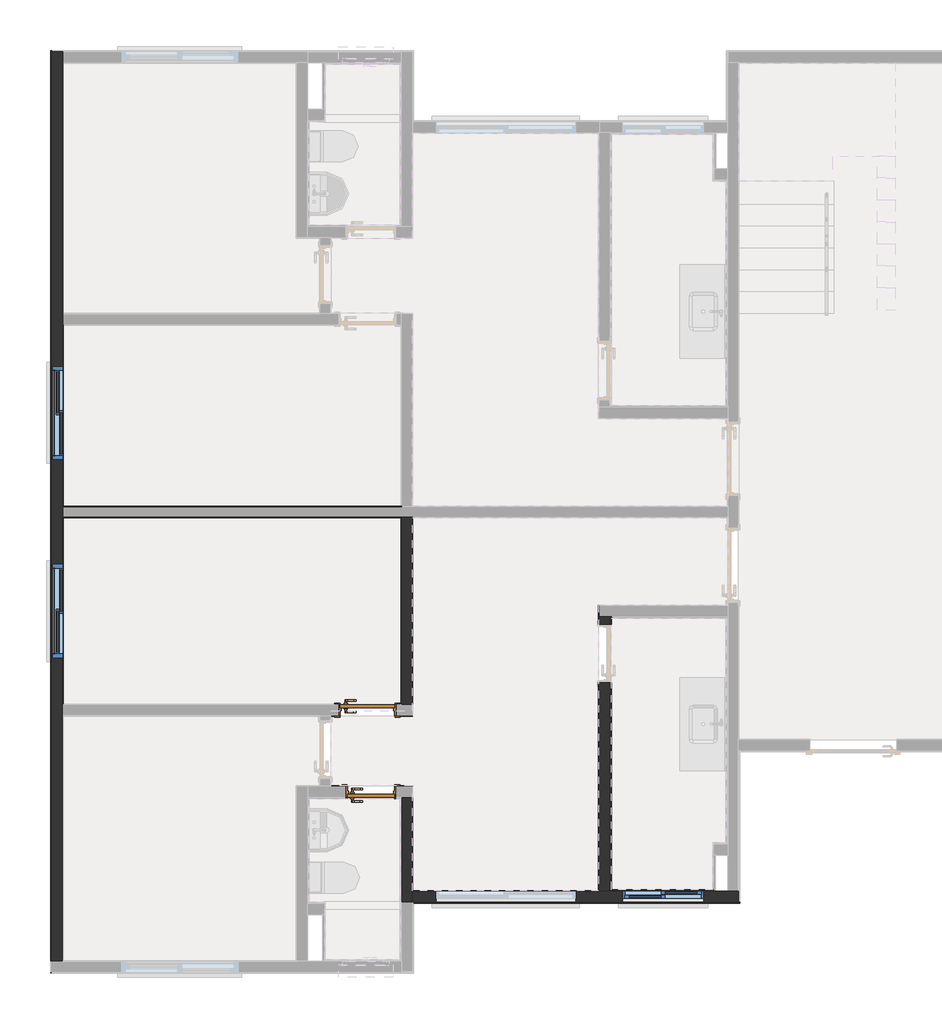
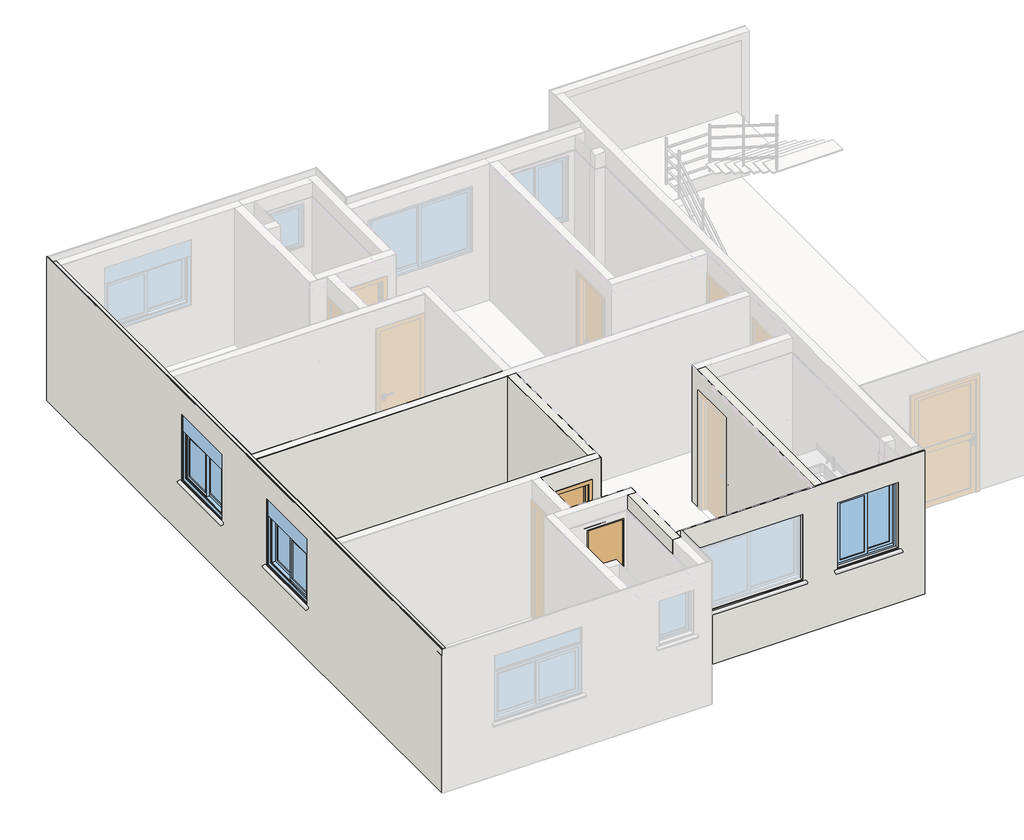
# One storey, part 2 of 11: 20 walls, 3 windows, 2 doors.
"""IFC4 building model written with IfcOpenShell, lengths in millimetres."""

from ifc_helpers import new_model, si_unit, frame, origin, origin_with_axes, place, context, project, spatial, polyline, outline, extrude, faceted_brep, transform, mapped, element, save
from components import porta_de_madeira_interna_60_x_210_porta_de_madeira_interna_53f76a03, porta_de_madeira_interna_70_x_210_porta_de_madeira_interna_d0067c94, window_105x120_f2d7c1f1, window_120x120_fed861a7, window_120x120_8f0dd2b5

model = new_model("IFC4")

# Units and contexts
model_context = context("Model", 3, world=origin())
ifc_project = project(units=[si_unit("LENGTHUNIT", "METRE", prefix="MILLI")], contexts=[model_context])

# Site, building, storey
site = spatial("IfcSite", under=ifc_project)
building = spatial("IfcBuilding", under=site)
storey = spatial("IfcBuildingStorey", under=building, Name="Térreo", Elevation=0.0)

# Doors
placement = place(None, origin())
porta_de_madeira_interna_60_x_210_porta_de_madeira_interna_shape = porta_de_madeira_interna_60_x_210_porta_de_madeira_interna_53f76a03(model_context)
element("IfcDoor", 1, ObjectType="Porta de Madeira Interna 60 x 210 : Porta de Madeira Interna 60 x 210", at=placement, inside=storey, context=model_context, shape_type="MappedRepresentation", body=[
    mapped(porta_de_madeira_interna_60_x_210_porta_de_madeira_interna_shape, transform((4137.9990083, 2796.8217615, 0.0), x_axis=(1.0, 0.0, 0.0), y_axis=(0.0, 1.0, 0.0), z_axis=(0.0, 0.0, 1.0))),
])
porta_de_madeira_interna_70_x_210_porta_de_madeira_interna_shape = porta_de_madeira_interna_70_x_210_porta_de_madeira_interna_d0067c94(model_context)
element("IfcDoor", 2, ObjectType="Porta de Madeira Interna 70 x 210 : Porta de Madeira Interna 70 x 210", at=placement, inside=storey, context=model_context, shape_type="MappedRepresentation", body=[
    mapped(porta_de_madeira_interna_70_x_210_porta_de_madeira_interna_shape, transform((4092.999908, 3853.1701411, 0.0), x_axis=(1.0, 0.0, 0.0), y_axis=(0.0, 1.0, 0.0), z_axis=(0.0, 0.0, 1.0))),
])

# Walls
element("IfcWall", 3, ObjectType="Alvenaria Estrutural", at=placement, inside=storey, context=model_context, shape_type="Brep", body=[
    faceted_brep([(29.9991825, 4525.0101878, 1000.0), (29.9991825, 4525.0101878, 2200.0), (169.9991825, 4525.0101878, 2200.0), (169.9991825, 4525.0101878, 1000.0), (127.4991825, 4525.0101878, 1000.0), (29.9991825, 8275.01044, 2200.0), (29.9991825, 8275.01044, 1000.0), (127.4991825, 8275.01044, 1000.0), (169.9991825, 8275.01044, 1000.0), (169.9991825, 8275.01044, 2200.0), (29.9991825, 619.9952456, 0.0), (29.9991825, 12319.9951043, 0.0), (169.9991825, 12319.9951043, 0.0), (169.9991825, 12180.0252435, 0.0), (169.9991825, 8956.0244803, 0.0), (169.9991825, 8950.0244803, 0.0), (169.9991825, 8810.0244803, 0.0), (169.9991825, 8804.0244803, 0.0), (169.9991825, 6476.0103139, 0.0), (169.9991825, 6470.0103139, 0.0), (169.9991825, 6330.0103139, 0.0), (169.9991825, 6324.0103139, 0.0), (169.9991825, 3925.9951411, 0.0), (169.9991825, 3919.9951411, 0.0), (169.9991825, 3779.9951411, 0.0), (169.9991825, 3773.9951411, 0.0), (169.9991825, 619.9952456, 0.0), (29.9991825, 619.9952456, 2510.0), (169.9991825, 619.9952456, 2510.0), (29.9991825, 12319.9951043, 2510.0), (169.9991825, 12319.9951043, 2510.0), (29.9991825, 4475.0101878, 951.3083694), (29.9991825, 4475.0101878, 1000.0), (127.4991825, 4475.0101878, 1000.0), (127.4991825, 4475.0101878, 972.0326341), (29.9991825, 5775.0101878, 1000.0), (29.9991825, 5775.0101878, 951.3083694), (127.4991825, 5775.0101878, 972.0326341), (127.4991825, 5775.0101878, 1000.0), (127.4991825, 5725.0101878, 1000.0), (29.9991825, 7025.01044, 951.3083694), (29.9991825, 7025.01044, 1000.0), (127.4991825, 7025.01044, 1000.0), (127.4991825, 7025.01044, 972.0326341), (29.9991825, 8325.01044, 1000.0), (29.9991825, 8325.01044, 951.3083694), (127.4991825, 8325.01044, 972.0326341), (127.4991825, 8325.01044, 1000.0), (127.4991825, 7075.01044, 1000.0), (29.9991825, 7075.01044, 1000.0), (29.9991825, 7075.01044, 2200.0), (29.9991825, 5725.0101878, 1000.0), (29.9991825, 5725.0101878, 2200.0), (169.9991825, 12180.0252435, 2510.0), (169.9991825, 8956.0244803, 2510.0), (169.9991825, 8950.0244803, 2510.0), (169.9991825, 8810.0244803, 2510.0), (169.9991825, 8804.0244803, 2510.0), (169.9991825, 6476.0103139, 2510.0), (169.9991825, 6470.0103139, 2510.0), (169.9991825, 6330.0103139, 2510.0), (169.9991825, 6324.0103139, 2510.0), (169.9991825, 3925.9951411, 2510.0), (169.9991825, 3919.9951411, 2510.0), (169.9991825, 3779.9951411, 2510.0), (169.9991825, 3773.9951411, 2510.0), (169.9991825, 5725.0101878, 2200.0), (169.9991825, 5725.0101878, 1000.0), (169.9991825, 7075.01044, 1000.0), (169.9991825, 7075.01044, 2200.0)], [[[0, 1, 2, 3, 4]], [[5, 6, 7, 8, 9]], [[10, 11, 12, 13, 14, 15, 16, 17, 18, 19, 20, 21, 22, 23, 24, 25, 26]], [[27, 10, 26, 28]], [[11, 29, 30, 12]], [[31, 32, 33, 34]], [[35, 36, 37, 38]], [[4, 39, 38, 37, 34, 33]], [[32, 0, 4, 33]], [[36, 31, 34, 37]], [[40, 41, 42, 43]], [[44, 45, 46, 47]], [[48, 7, 47, 46, 43, 42]], [[41, 49, 48, 42]], [[45, 40, 43, 46]], [[11, 10, 27, 29], [41, 40, 45, 44, 6, 5, 50, 49], [51, 52, 1, 0, 32, 31, 36, 35]], [[26, 25, 24, 23, 22, 21, 20, 19, 18, 17, 16, 15, 14, 13, 12, 30, 53, 54, 55, 56, 57, 58, 59, 60, 61, 62, 63, 64, 65, 28], [66, 67, 3, 2], [68, 69, 9, 8]], [[52, 51, 39, 67, 66]], [[1, 52, 66, 2]], [[3, 67, 39, 4]], [[49, 50, 69, 68, 48]], [[50, 5, 9, 69]], [[68, 8, 7, 48]], [[6, 44, 47, 7]], [[51, 35, 38, 39]], [[29, 27, 28, 65, 64, 63, 62, 61, 60, 59, 58, 57, 56, 55, 54, 53, 30]]]),
    faceted_brep([(29.9991825, 12319.9951043, 0.0), (29.9991825, 619.9952456, 0.0), (29.9991825, 619.9952456, 2510.0), (29.9991825, 12319.9951043, 2510.0), (29.9991825, 5725.0101878, 1000.0), (29.9991825, 5725.0101878, 2200.0), (29.9991825, 4525.0101878, 2200.0), (29.9991825, 4525.0101878, 1000.0), (29.9991825, 4475.0101878, 1000.0), (29.9991825, 4475.0101878, 951.3083694), (29.9991825, 5775.0101878, 951.3083694), (29.9991825, 5775.0101878, 1000.0), (29.9991825, 7025.01044, 1000.0), (29.9991825, 7025.01044, 951.3083694), (29.9991825, 8325.01044, 951.3083694), (29.9991825, 8325.01044, 1000.0), (29.9991825, 8275.01044, 1000.0), (29.9991825, 8275.01044, 2200.0), (29.9991825, 7075.01044, 2200.0), (29.9991825, 7075.01044, 1000.0), (169.9991825, 619.9952456, 0.0), (169.9991825, 3773.9951411, 0.0), (169.9991825, 3779.9951411, 0.0), (169.9991825, 3919.9951411, 0.0), (169.9991825, 3925.9951411, 0.0), (169.9991825, 6324.0103139, 0.0), (169.9991825, 6330.0103139, 0.0), (169.9991825, 6470.0103139, 0.0), (169.9991825, 6476.0103139, 0.0), (169.9991825, 8804.0244803, 0.0), (169.9991825, 8810.0244803, 0.0), (169.9991825, 8950.0244803, 0.0), (169.9991825, 8956.0244803, 0.0), (169.9991825, 12180.0252435, 0.0), (169.9991825, 12319.9951043, 0.0), (169.9991825, 12319.9951043, 2510.0), (169.9991825, 12180.0252435, 2510.0), (169.9991825, 8956.0244803, 2510.0), (169.9991825, 8950.0244803, 2510.0), (169.9991825, 8810.0244803, 2510.0), (169.9991825, 8804.0244803, 2510.0), (169.9991825, 6476.0103139, 2510.0), (169.9991825, 6470.0103139, 2510.0), (169.9991825, 6330.0103139, 2510.0), (169.9991825, 6324.0103139, 2510.0), (169.9991825, 3925.9951411, 2510.0), (169.9991825, 3919.9951411, 2510.0), (169.9991825, 3779.9951411, 2510.0), (169.9991825, 3773.9951411, 2510.0), (169.9991825, 619.9952456, 2510.0), (169.9991825, 5725.0101878, 2200.0), (169.9991825, 5725.0101878, 1000.0), (169.9991825, 4525.0101878, 1000.0), (169.9991825, 4525.0101878, 2200.0), (169.9991825, 7075.01044, 1000.0), (169.9991825, 7075.01044, 2200.0), (169.9991825, 8275.01044, 2200.0), (169.9991825, 8275.01044, 1000.0), (127.4991825, 5725.0101878, 1000.0), (127.4991825, 4525.0101878, 1000.0), (127.4991825, 7075.01044, 1000.0), (127.4991825, 8275.01044, 1000.0), (127.4991825, 4475.0101878, 1000.0), (127.4991825, 4475.0101878, 972.0326341), (127.4991825, 5775.0101878, 972.0326341), (127.4991825, 5775.0101878, 1000.0), (127.4991825, 7025.01044, 1000.0), (127.4991825, 7025.01044, 972.0326341), (127.4991825, 8325.01044, 972.0326341), (127.4991825, 8325.01044, 1000.0)], [[[0, 1, 2, 3], [4, 5, 6, 7, 8, 9, 10, 11], [12, 13, 14, 15, 16, 17, 18, 19]], [[20, 21, 22, 23, 24, 25, 26, 27, 28, 29, 30, 31, 32, 33, 34, 35, 36, 37, 38, 39, 40, 41, 42, 43, 44, 45, 46, 47, 48, 49], [50, 51, 52, 53], [54, 55, 56, 57]], [[5, 4, 58, 51, 50]], [[6, 5, 50, 53]], [[7, 6, 53, 52, 59]], [[52, 51, 58, 59]], [[19, 18, 55, 54, 60]], [[18, 17, 56, 55]], [[17, 16, 61, 57, 56]], [[54, 57, 61, 60]], [[1, 0, 34, 33, 32, 31, 30, 29, 28, 27, 26, 25, 24, 23, 22, 21, 20]], [[2, 1, 20, 49]], [[3, 2, 49, 48, 47, 46, 45, 44, 43, 42, 41, 40, 39, 38, 37, 36, 35]], [[0, 3, 35, 34]], [[9, 8, 62, 63]], [[11, 10, 64, 65]], [[59, 58, 65, 64, 63, 62]], [[8, 7, 59, 62]], [[10, 9, 63, 64]], [[13, 12, 66, 67]], [[15, 14, 68, 69]], [[60, 61, 69, 68, 67, 66]], [[12, 19, 60, 66]], [[14, 13, 67, 68]], [[16, 15, 69, 61]], [[4, 11, 65, 58]]]),
])
element("IfcWall", 4, ObjectType="Alvenaria Estrutural", at=placement, inside=storey, context=model_context, shape_type="Brep", body=[
    faceted_brep([(4529.9996867, 6324.0103139, 0.0), (4529.9996867, 6330.0103139, 0.0), (4669.9996867, 6330.0103139, 0.0), (4669.9996867, 6324.0103139, 0.0), (4669.9996867, 3919.9951411, 0.0), (4529.9996867, 3919.9951411, 0.0), (4529.9996867, 3925.9951411, 0.0), (4529.9996867, 3925.9951411, 2510.0), (4529.9996867, 3919.9951411, 2510.0), (4669.9996867, 3919.9951411, 2510.0), (4669.9996867, 6324.0103139, 2510.0), (4669.9996867, 6330.0103139, 2510.0), (4529.9996867, 6330.0103139, 2510.0), (4529.9996867, 6324.0103139, 2510.0)], [[[0, 1, 2, 3, 4, 5, 6]], [[7, 8, 9, 10, 11, 12, 13]], [[2, 11, 10, 9, 4, 3]], [[1, 0, 6, 5, 8, 7, 13, 12]], [[1, 12, 11, 2]], [[8, 5, 4, 9]]]),
    faceted_brep([(4529.9996867, 6330.0103139, 0.0), (4529.9996867, 6324.0103139, 0.0), (4529.9996867, 3925.9951411, 0.0), (4529.9996867, 3919.9951411, 0.0), (4529.9996867, 3919.9951411, 2510.0), (4529.9996867, 3925.9951411, 2510.0), (4529.9996867, 6324.0103139, 2510.0), (4529.9996867, 6330.0103139, 2510.0), (4669.9996867, 6330.0103139, 0.0), (4669.9996867, 6330.0103139, 2510.0), (4669.9996867, 6324.0103139, 2510.0), (4669.9996867, 3919.9951411, 2510.0), (4669.9996867, 3919.9951411, 0.0), (4669.9996867, 6324.0103139, 0.0)], [[[0, 1, 2, 3, 4, 5, 6, 7]], [[8, 9, 10, 11, 12, 13]], [[1, 0, 8, 13, 12, 3, 2]], [[5, 4, 11, 10, 9, 7, 6]], [[0, 7, 9, 8]], [[4, 3, 12, 11]]]),
])
element("IfcWall", 5, ObjectType="Alvenaria Estrutural", at=placement, inside=storey, context=model_context, shape_type="Brep", body=[
    faceted_brep([(4669.9990083, 1519.9983274, 0.0), (4669.9990083, 1374.9970972, 0.0), (4529.9990083, 1374.9970972, 0.0), (4529.9990083, 2709.9967615, 0.0), (4529.9990083, 2729.9967615, 0.0), (4669.9990083, 2729.9967615, 0.0), (4669.9990083, 1525.9983274, 0.0), (4669.9990083, 1525.9983274, 2510.0), (4669.9990083, 2729.9967615, 2510.0), (4529.9990083, 2729.9967615, 2510.0), (4529.9990083, 1374.9970972, 2510.0), (4669.9990083, 1374.9970972, 2510.0), (4669.9990083, 1519.9983274, 2510.0), (4529.9990083, 2729.9967615, 2250.0)], [[[0, 1, 2, 3, 4, 5, 6]], [[7, 8, 9, 10, 11, 12]], [[1, 11, 10, 2]], [[1, 0, 6, 5, 8, 7, 12, 11]], [[2, 10, 9, 13, 4, 3]], [[8, 5, 4, 13, 9]]]),
    faceted_brep([(4669.9990083, 1374.9970972, 0.0), (4669.9990083, 1519.9983274, 0.0), (4669.9990083, 1525.9983274, 0.0), (4669.9990083, 2729.9967615, 0.0), (4669.9990083, 2729.9967615, 2510.0), (4669.9990083, 1525.9983274, 2510.0), (4669.9990083, 1519.9983274, 2510.0), (4669.9990083, 1374.9970972, 2510.0), (4529.9990083, 1374.9970972, 0.0), (4529.9990083, 1374.9970972, 2510.0), (4529.9990083, 2729.9967615, 2510.0), (4529.9990083, 2729.9967615, 2250.0), (4529.9990083, 2729.9967615, 0.0), (4529.9990083, 2709.9967615, 0.0)], [[[0, 1, 2, 3, 4, 5, 6, 7]], [[8, 9, 10, 11, 12, 13]], [[1, 0, 8, 13, 12, 3, 2]], [[5, 4, 10, 9, 7, 6]], [[0, 7, 9, 8]], [[4, 3, 12, 11, 10]]]),
])
element("IfcWall", 6, ObjectType="Alvenaria Estrutural", at=placement, inside=storey, context=model_context, shape_type="Brep", body=[
    faceted_brep([(8869.9990083, 1379.9983274, 2520.0), (8869.9990083, 1379.9983274, 10.0), (8869.9990083, 1519.9983274, 10.0), (8869.9990083, 1519.9983274, 2520.0), (4669.9990083, 1379.9983274, 2520.0), (4669.9990083, 1519.9983274, 2520.0), (4669.9990083, 1379.9983274, 10.0), (4669.9990083, 1519.9983274, 2510.0), (4669.9990083, 1519.9983274, 10.0), (8474.99921, 1379.9983274, 951.3083694), (8474.99921, 1379.9983274, 1000.0), (8474.99921, 1477.4983274, 1000.0), (8474.99921, 1477.4983274, 972.0326341), (7324.99921, 1379.9983274, 1000.0), (7324.99921, 1379.9983274, 951.3083694), (7324.99921, 1477.4983274, 972.0326341), (7324.99921, 1477.4983274, 1000.0), (8424.99921, 1477.4983274, 1000.0), (7374.99921, 1477.4983274, 1000.0), (8424.99921, 1379.9983274, 1000.0), (8424.99921, 1379.9983274, 2200.0), (8424.99921, 1519.9983274, 2200.0), (8424.99921, 1519.9983274, 1000.0), (7374.99921, 1379.9983274, 2200.0), (7374.99921, 1519.9983274, 2200.0), (7374.99921, 1379.9983274, 1000.0), (7374.99921, 1519.9983274, 1000.0), (6774.99925, 1519.9983274, 1000.0), (6774.99925, 1519.9983274, 2200.0), (4974.99925, 1519.9983274, 2200.0), (4974.99925, 1519.9983274, 1000.0), (4924.99925, 1379.9983274, 951.3083694), (4924.99925, 1379.9983274, 1000.0), (4974.99925, 1379.9983274, 1000.0), (4974.99925, 1379.9983274, 2200.0), (6774.99925, 1379.9983274, 2200.0), (6774.99925, 1379.9983274, 1000.0), (6824.99925, 1379.9983274, 1000.0), (6824.99925, 1379.9983274, 951.3083694), (4924.99925, 1477.4983274, 972.0326341), (4924.99925, 1477.4983274, 1000.0), (6824.99925, 1477.4983274, 1000.0), (6824.99925, 1477.4983274, 972.0326341), (6774.99925, 1477.4983274, 1000.0), (4974.99925, 1477.4983274, 1000.0)], [[[0, 1, 2, 3]], [[4, 0, 3, 5]], [[6, 4, 5, 7, 8]], [[9, 10, 11, 12]], [[13, 14, 15, 16]], [[12, 11, 17, 18, 16, 15]], [[10, 19, 17, 11]], [[14, 9, 12, 15]], [[19, 20, 21, 22, 17]], [[20, 23, 24, 21]], [[23, 25, 18, 26, 24]], [[22, 26, 18, 17]], [[25, 13, 16, 18]], [[8, 7, 5, 3, 2], [22, 21, 24, 26], [27, 28, 29, 30]], [[1, 0, 4, 6], [10, 9, 14, 13, 25, 23, 20, 19], [31, 32, 33, 34, 35, 36, 37, 38]], [[32, 31, 39, 40]], [[38, 37, 41, 42]], [[40, 39, 42, 41, 43, 44]], [[33, 32, 40, 44]], [[31, 38, 42, 39]], [[36, 35, 28, 27, 43]], [[35, 34, 29, 28]], [[34, 33, 44, 30, 29]], [[27, 30, 44, 43]], [[37, 36, 43, 41]], [[1, 6, 8, 2]]]),
    faceted_brep([(4669.9990083, 1379.9983274, 10.0), (8869.9990083, 1379.9983274, 10.0), (8869.9990083, 1379.9983274, 2520.0), (4669.9990083, 1379.9983274, 2520.0), (4924.99925, 1379.9983274, 951.3083694), (4924.99925, 1379.9983274, 1000.0), (4974.99925, 1379.9983274, 1000.0), (4974.99925, 1379.9983274, 2200.0), (6774.99925, 1379.9983274, 2200.0), (6774.99925, 1379.9983274, 1000.0), (6824.99925, 1379.9983274, 1000.0), (6824.99925, 1379.9983274, 951.3083694), (8474.99921, 1379.9983274, 1000.0), (8474.99921, 1379.9983274, 951.3083694), (7324.99921, 1379.9983274, 951.3083694), (7324.99921, 1379.9983274, 1000.0), (7374.99921, 1379.9983274, 1000.0), (7374.99921, 1379.9983274, 2200.0), (8424.99921, 1379.9983274, 2200.0), (8424.99921, 1379.9983274, 1000.0), (8869.9990083, 1519.9983274, 10.0), (4669.9990083, 1519.9983274, 10.0), (4669.9990083, 1519.9983274, 2510.0), (4669.9990083, 1519.9983274, 2520.0), (8869.9990083, 1519.9983274, 2520.0), (8424.99921, 1519.9983274, 1000.0), (8424.99921, 1519.9983274, 2200.0), (7374.99921, 1519.9983274, 2200.0), (7374.99921, 1519.9983274, 1000.0), (6774.99925, 1519.9983274, 1000.0), (6774.99925, 1519.9983274, 2200.0), (4974.99925, 1519.9983274, 2200.0), (4974.99925, 1519.9983274, 1000.0), (8474.99921, 1477.4983274, 1000.0), (8474.99921, 1477.4983274, 972.0326341), (7324.99921, 1477.4983274, 972.0326341), (7324.99921, 1477.4983274, 1000.0), (8424.99921, 1477.4983274, 1000.0), (7374.99921, 1477.4983274, 1000.0), (4924.99925, 1477.4983274, 972.0326341), (4924.99925, 1477.4983274, 1000.0), (6824.99925, 1477.4983274, 1000.0), (6824.99925, 1477.4983274, 972.0326341), (6774.99925, 1477.4983274, 1000.0), (4974.99925, 1477.4983274, 1000.0)], [[[0, 1, 2, 3], [4, 5, 6, 7, 8, 9, 10, 11], [12, 13, 14, 15, 16, 17, 18, 19]], [[20, 21, 22, 23, 24], [25, 26, 27, 28], [29, 30, 31, 32]], [[1, 0, 21, 20]], [[2, 1, 20, 24]], [[3, 2, 24, 23]], [[0, 3, 23, 22, 21]], [[13, 12, 33, 34]], [[15, 14, 35, 36]], [[34, 33, 37, 38, 36, 35]], [[12, 19, 37, 33]], [[14, 13, 34, 35]], [[19, 18, 26, 25, 37]], [[18, 17, 27, 26]], [[17, 16, 38, 28, 27]], [[25, 28, 38, 37]], [[5, 4, 39, 40]], [[11, 10, 41, 42]], [[40, 39, 42, 41, 43, 44]], [[6, 5, 40, 44]], [[4, 11, 42, 39]], [[9, 8, 30, 29, 43]], [[8, 7, 31, 30]], [[7, 6, 44, 32, 31]], [[29, 32, 44, 43]], [[10, 9, 43, 41]], [[16, 15, 36, 38]]]),
])
element("IfcWall", 7, ObjectType="Alvenaria Estrutural", at=placement, inside=storey, context=model_context, shape_type="Brep", body=[
    faceted_brep([(7212.9986861, 1519.9983274, 0.0), (7212.9986861, 1519.9983274, 10.0), (7212.9986861, 1519.9983274, 2250.0), (7212.9986861, 1519.9983274, 2510.0), (7072.9986861, 1519.9983274, 2510.0), (7072.9986861, 1519.9983274, 10.0), (7072.9986861, 1519.9983274, 0.0), (7212.9986861, 1539.9983274, 0.0), (7072.9986861, 1525.9983274, 0.0), (7072.9986861, 4203.6603139, 0.0), (7212.9986861, 4203.6603139, 0.0), (7212.9986861, 4203.6603139, 10.0), (7072.9986861, 4203.6603139, 10.0), (7072.9986861, 4203.6603139, 2125.0), (7212.9986861, 4203.6603139, 2125.0), (7212.9986861, 4953.6603139, 0.0), (7212.9986861, 4953.6603139, 10.0), (7212.9986861, 4953.6603139, 2125.0), (7072.9986861, 4953.6603139, 2125.0), (7072.9986861, 4953.6603139, 10.0), (7072.9986861, 4953.6603139, 0.0), (7212.9986861, 5033.6603139, 0.0), (7072.9986861, 5053.6603139, 0.0), (7212.9986861, 5053.6603139, 0.0), (7212.9986861, 5053.6603139, 10.0), (7072.9986861, 5053.6603139, 10.0), (7072.9986861, 5053.6603139, 2510.0), (7212.9986861, 5053.6603139, 2510.0), (7212.9986861, 5053.6603139, 2250.0), (7072.9986861, 1525.9983274, 2510.0)], [[[0, 1, 2, 3, 4, 5, 6]], [[7, 0, 6, 8, 9, 10]], [[11, 10, 9, 12, 13, 14]], [[15, 16, 17, 18, 19, 20]], [[21, 15, 20, 22, 23]], [[24, 23, 22, 25, 26, 27, 28]], [[25, 22, 20, 19, 18, 13, 12, 9, 8, 6, 5, 4, 29, 26]], [[3, 27, 26, 29, 4]], [[17, 14, 13, 18]], [[16, 15, 21, 23, 24, 28, 27, 3, 2, 1, 0, 7, 10, 11, 14, 17]]]),
])
element("IfcWall", 8, ObjectType="Azulejo", at=placement, inside=storey, context=model_context, shape_type="Brep", body=[
    faceted_brep([(7233.0017324, 4203.6603139, 0.0), (7233.0017324, 1519.9983274, 0.0), (7223.0017324, 1519.9983274, 0.0), (7223.0017324, 4203.6603139, 0.0), (7223.0017324, 4203.6603139, 10.0), (7223.0017324, 4203.6603139, 2125.0), (7233.0017324, 4203.6603139, 2125.0), (7233.0017324, 4203.6603139, 10.0), (7233.0017324, 4953.6603139, 0.0), (7233.0017324, 4953.6603139, 10.0), (7233.0017324, 4953.6603139, 2125.0), (7223.0017324, 4953.6603139, 2125.0), (7223.0017324, 4953.6603139, 10.0), (7223.0017324, 4953.6603139, 0.0), (7223.0017324, 5053.6603139, 0.0), (7233.0017324, 5053.6603139, 0.0), (7233.0017324, 5053.6603139, 10.0), (7223.0017324, 5053.6603139, 10.0), (7223.0017324, 5053.6603139, 2250.0), (7233.0017324, 5053.6603139, 2250.0), (7233.0017324, 1519.9983274, 10.0), (7233.0017324, 1519.9983274, 2250.0), (7223.0017324, 1519.9983274, 2250.0), (7223.0017324, 1519.9983274, 10.0)], [[[0, 1, 2, 3]], [[0, 3, 4, 5, 6, 7]], [[8, 9, 10, 11, 12, 13]], [[8, 13, 14, 15]], [[16, 15, 14, 17, 18, 19]], [[2, 1, 20, 21, 22, 23]], [[1, 0, 7, 6, 10, 9, 8, 15, 16, 19, 21, 20]], [[3, 2, 23, 22, 18, 17, 14, 13, 12, 11, 5, 4]], [[10, 6, 5, 11]], [[21, 19, 18, 22]]]),
    faceted_brep([(7223.0017324, 4203.6603139, 0.0), (7223.0017324, 1519.9983274, 0.0), (7213.0017324, 1519.9983274, 0.0), (7213.0017324, 4203.6603139, 0.0), (7223.0017324, 4203.6603139, 10.0), (7213.0017324, 4203.6603139, 10.0), (7213.0017324, 4203.6603139, 2125.0), (7223.0017324, 4203.6603139, 2125.0), (7223.0017324, 4953.6603139, 0.0), (7223.0017324, 4953.6603139, 10.0), (7223.0017324, 4953.6603139, 2125.0), (7213.0017324, 4953.6603139, 2125.0), (7213.0017324, 4953.6603139, 10.0), (7213.0017324, 4953.6603139, 0.0), (7223.0017324, 5053.6603139, 0.0), (7213.0017324, 5053.6603139, 0.0), (7223.0017324, 5053.6603139, 10.0), (7213.0017324, 5053.6603139, 10.0), (7213.0017324, 5053.6603139, 2250.0), (7223.0017324, 5053.6603139, 2250.0), (7223.0017324, 1519.9983274, 10.0), (7223.0017324, 1519.9983274, 2250.0), (7213.0017324, 1519.9983274, 2250.0), (7213.0017324, 1519.9983274, 10.0)], [[[0, 1, 2, 3]], [[4, 0, 3, 5, 6, 7]], [[8, 9, 10, 11, 12, 13]], [[14, 8, 13, 15]], [[16, 14, 15, 17, 18, 19]], [[1, 20, 21, 22, 23, 2]], [[17, 15, 13, 12, 11, 6, 5, 3, 2, 23, 22, 18]], [[10, 7, 6, 11]], [[21, 19, 18, 22]], [[9, 8, 14, 16, 19, 21, 20, 1, 0, 4, 7, 10]]]),
])
element("IfcWall", 9, ObjectType="Azulejo", at=placement, inside=storey, context=model_context, shape_type="SolidModel", body=[
    faceted_brep([(8536.99631, 1539.9983274, 0.0), (8546.99631, 1539.9983274, 0.0), (8546.99631, 1529.9983274, 0.0), (7212.9986861, 1529.9983274, 0.0), (7212.9986861, 1539.9983274, 0.0), (8536.99631, 1539.9983274, 2250.0), (7212.9986861, 1539.9983274, 2250.0), (7212.9986861, 1529.9983274, 2250.0), (8546.99631, 1529.9983274, 2250.0), (8546.99631, 1539.9983274, 2250.0), (8424.99921, 1539.9983274, 2200.0), (8424.99921, 1539.9983274, 1000.0), (8424.99921, 1529.9983274, 1000.0), (8424.99921, 1529.9983274, 2200.0), (7374.99921, 1539.9983274, 2200.0), (7374.99921, 1529.9983274, 2200.0), (7374.99921, 1539.9983274, 1000.0), (7374.99921, 1529.9983274, 1000.0)], [[[0, 1, 2, 3, 4]], [[5, 6, 7, 8, 9]], [[10, 11, 12, 13]], [[14, 10, 13, 15]], [[16, 14, 15, 17]], [[11, 16, 17, 12]], [[6, 4, 3, 7]], [[1, 9, 8, 2]], [[3, 2, 8, 7], [13, 12, 17, 15]], [[4, 6, 5, 9, 1, 0], [11, 10, 14, 16]]]),
    extrude(outline(polyline([(0.0, 7212.9986861), (0.0, 8546.99631), (2250.0, 8546.99631), (2250.0, 7212.9986861), (0.0, 7212.9986861)]), holes=[polyline([(1000.0, 8424.99921), (1000.0, 7374.99921), (2200.0, 7374.99921), (2200.0, 8424.99921), (1000.0, 8424.99921)])]), frame((0.0, 1519.9983274, 0.0), z_axis=(0.0, 1.0, 0.0), x_axis=(0.0, 0.0, 1.0)), (0.0, 0.0, 1.0), 10.0),
])
element("IfcWall", 10, ObjectType="Gesso Liso + Pintura", at=placement, inside=storey, context=model_context, shape_type="SweptSolid", body=[
    extrude(outline(polyline([(8810.0244803, 0.0), (6470.0103139, 0.0), (6470.0103139, 2510.0), (8810.0244803, 2510.0), (8810.0244803, 0.0)]), holes=[polyline([(7075.01044, 2200.0), (7075.01044, 1000.0), (8275.01044, 1000.0), (8275.01044, 2200.0), (7075.01044, 2200.0)])]), frame((174.9991825, 0.0, 0.0), z_axis=(1.0, 0.0, 0.0), x_axis=(0.0, 1.0, 0.0)), (0.0, 0.0, 1.0), 1.0),
    extrude(outline(polyline([(6470.0103139, 0.0), (6470.0103139, 2510.0), (8810.0244803, 2510.0), (8810.0244803, 0.0), (6470.0103139, 0.0)]), holes=[polyline([(7075.01044, 1000.0), (8275.01044, 1000.0), (8275.01044, 2200.0), (7075.01044, 2200.0), (7075.01044, 1000.0)])]), frame((169.9991825, 0.0, 0.0), z_axis=(1.0, 0.0, 0.0), x_axis=(0.0, 1.0, 0.0)), (0.0, 0.0, 1.0), 5.0),
])
element("IfcWall", 11, ObjectType="Gesso Liso + Pintura", at=placement, inside=storey, context=model_context, shape_type="SweptSolid", body=[
    extrude(outline(polyline([(169.9991825, 6476.0103139), (4529.9996867, 6476.0103139), (4529.9996867, 6475.0103139), (169.9991825, 6475.0103139), (169.9991825, 6476.0103139)])), origin_with_axes(), (0.0, 0.0, 1.0), 2510.0),
    extrude(outline(polyline([(4529.9996867, 6470.0103139), (169.9991825, 6470.0103139), (169.9991825, 6475.0103139), (4529.9996867, 6475.0103139), (4529.9996867, 6470.0103139)])), origin_with_axes(), (0.0, 0.0, 1.0), 2510.0),
])
element("IfcWall", 12, ObjectType="Gesso Liso + Pintura", at=placement, inside=storey, context=model_context, shape_type="SweptSolid", body=[
    extrude(outline(polyline([(6330.0103139, 0.0), (3919.9951411, 0.0), (3919.9951411, 2510.0), (6330.0103139, 2510.0), (6330.0103139, 0.0)]), holes=[polyline([(5725.0101878, 1000.0), (5725.0101878, 2200.0), (4525.0101878, 2200.0), (4525.0101878, 1000.0), (5725.0101878, 1000.0)])]), frame((174.9991825, 0.0, 0.0), z_axis=(1.0, 0.0, 0.0), x_axis=(0.0, 1.0, 0.0)), (0.0, 0.0, 1.0), 1.0),
    extrude(outline(polyline([(6330.0103139, 0.0), (3919.9951411, 0.0), (3919.9951411, 2510.0), (6330.0103139, 2510.0), (6330.0103139, 0.0)]), holes=[polyline([(5725.0101878, 1000.0), (5725.0101878, 2200.0), (4525.0101878, 2200.0), (4525.0101878, 1000.0), (5725.0101878, 1000.0)])]), frame((169.9991825, 0.0, 0.0), z_axis=(1.0, 0.0, 0.0), x_axis=(0.0, 1.0, 0.0)), (0.0, 0.0, 1.0), 5.0),
])
element("IfcWall", 13, ObjectType="Gesso Liso + Pintura", at=placement, inside=storey, context=model_context, shape_type="SweptSolid", body=[
    extrude(outline(polyline([(4523.9996867, 3919.9951411), (4523.9996867, 6330.0103139), (4524.9996867, 6330.0103139), (4524.9996867, 3919.9951411), (4523.9996867, 3919.9951411)])), origin_with_axes(), (0.0, 0.0, 1.0), 2510.0),
    extrude(outline(polyline([(4529.9996867, 6330.0103139), (4529.9996867, 3919.9951411), (4524.9996867, 3919.9951411), (4524.9996867, 6330.0103139), (4529.9996867, 6330.0103139)])), origin_with_axes(), (0.0, 0.0, 1.0), 2510.0),
])
element("IfcWall", 14, ObjectType="Gesso Liso + Pintura", at=placement, inside=storey, context=model_context, shape_type="SweptSolid", body=[
    extrude(outline(polyline([(4529.9996867, 6324.0103139), (169.9991825, 6324.0103139), (169.9991825, 6325.0103139), (4529.9996867, 6325.0103139), (4529.9996867, 6324.0103139)])), origin_with_axes(), (0.0, 0.0, 1.0), 2510.0),
    extrude(outline(polyline([(169.9991825, 6330.0103139), (4529.9996867, 6330.0103139), (4529.9996867, 6325.0103139), (169.9991825, 6325.0103139), (169.9991825, 6330.0103139)])), origin_with_axes(), (0.0, 0.0, 1.0), 2510.0),
])
element("IfcWall", 15, ObjectType="Gesso Liso + Pintura", at=placement, inside=storey, context=model_context, shape_type="Brep", body=[
    faceted_brep([(4675.9990083, 2875.9967615, 0.0), (4675.9990083, 1519.9983274, 0.0), (4674.9990083, 1519.9983274, 0.0), (4674.9990083, 2875.9967615, 0.0), (4674.9990083, 2875.9967615, 10.0), (4674.9990083, 2875.9967615, 2510.0), (4675.9990083, 2875.9967615, 2510.0), (4675.9990083, 2875.9967615, 10.0), (4675.9990083, 1519.9983274, 10.0), (4675.9990083, 1519.9983274, 2510.0), (4674.9990083, 1519.9983274, 2510.0), (4674.9990083, 1519.9983274, 10.0)], [[[0, 1, 2, 3]], [[0, 3, 4, 5, 6, 7]], [[2, 1, 8, 9, 10, 11]], [[1, 0, 7, 6, 9, 8]], [[3, 2, 11, 10, 5, 4]], [[9, 6, 5, 10]]]),
    faceted_brep([(4674.9990083, 1519.9983274, 0.0), (4674.9990083, 2874.9967615, 0.0), (4674.9990083, 2874.9967615, 10.0), (4674.9990083, 2874.9967615, 2510.0), (4674.9990083, 1519.9983274, 2510.0), (4674.9990083, 1519.9983274, 10.0), (4669.9990083, 1519.9983274, 0.0), (4669.9990083, 2869.9967615, 0.0), (4669.9990083, 2874.9967615, 0.0), (4669.9990083, 1519.9983274, 2510.0), (4669.9990083, 1519.9983274, 10.0), (4669.9990083, 2869.9967615, 2510.0), (4669.9990083, 2874.9967615, 2510.0), (4669.9990083, 2874.9967615, 10.0)], [[[0, 1, 2, 3, 4, 5]], [[1, 0, 6, 7, 8]], [[0, 5, 4, 9, 10, 6]], [[6, 10, 9, 11, 12, 13, 8, 7]], [[8, 13, 12, 3, 2, 1]], [[4, 3, 12, 11, 9]]]),
])
element("IfcWall", 16, ObjectType="Gesso Liso + Pintura", at=placement, inside=storey, context=model_context, shape_type="SweptSolid", body=[
    extrude(outline(polyline([(0.0, 4462.9990083), (0.0, 4674.9990083), (2510.0, 4674.9990083), (2510.0, 3619.9980641), (0.0, 3619.9980641), (0.0, 3812.9990083), (2125.0, 3812.9990083), (2125.0, 4462.9990083), (0.0, 4462.9990083)])), frame((0.0, 2874.9967615, 0.0), z_axis=(0.0, 1.0, 0.0), x_axis=(0.0, 0.0, 1.0)), (0.0, 0.0, 1.0), 1.0),
    extrude(outline(polyline([(2510.0, 4669.9990083), (2510.0, 3619.9980641), (0.0, 3619.9980641), (0.0, 3812.9990083), (2125.0, 3812.9990083), (2125.0, 4462.9990083), (0.0, 4462.9990083), (0.0, 4669.9990083), (2510.0, 4669.9990083)])), frame((0.0, 2869.9967615, 0.0), z_axis=(0.0, 1.0, 0.0), x_axis=(0.0, 0.0, 1.0)), (0.0, 0.0, 1.0), 5.0),
])
element("IfcWall", 17, ObjectType="Gesso Liso + Pintura", at=placement, inside=storey, context=model_context, shape_type="SolidModel", body=[
    extrude(outline(polyline([(2510.0, 4675.9996867), (2510.0, 3619.9980641), (0.0, 3619.9980641), (0.0, 3717.999908), (2125.0, 3717.999908), (2125.0, 4467.999908), (0.0, 4467.999908), (0.0, 4675.9996867), (2510.0, 4675.9996867)])), frame((0.0, 3773.9951411, 0.0), z_axis=(0.0, 1.0, 0.0), x_axis=(0.0, 0.0, 1.0)), (0.0, 0.0, 1.0), 1.0),
    faceted_brep([(4467.999908, 3774.9951411, 0.0), (4674.9996867, 3774.9951411, 0.0), (4674.9996867, 3774.9951411, 2510.0), (3619.9980641, 3774.9951411, 2510.0), (3619.9980641, 3774.9951411, 0.0), (3717.999908, 3774.9951411, 0.0), (3717.999908, 3774.9951411, 2125.0), (4467.999908, 3774.9951411, 2125.0), (3619.9980641, 3779.9951411, 2510.0), (4669.9996867, 3779.9951411, 2510.0), (4674.9996867, 3779.9951411, 2510.0), (4674.9996867, 3779.9951411, 0.0), (4669.9996867, 3779.9951411, 0.0), (4467.999908, 3779.9951411, 0.0), (4467.999908, 3779.9951411, 2125.0), (3717.999908, 3779.9951411, 2125.0), (3717.999908, 3779.9951411, 0.0), (3619.9980641, 3779.9951411, 0.0)], [[[0, 1, 2, 3, 4, 5, 6, 7]], [[8, 9, 10, 11, 12, 13, 14, 15, 16, 17]], [[17, 16, 5, 4]], [[9, 8, 3, 2, 10]], [[14, 13, 0, 7]], [[15, 14, 7, 6]], [[16, 15, 6, 5]], [[8, 17, 4, 3]], [[12, 11, 1, 0, 13]], [[11, 10, 2, 1]]]),
])
element("IfcWall", 18, ObjectType="Gesso Liso + Pintura", at=placement, inside=storey, context=model_context, shape_type="SweptSolid", body=[
    extrude(outline(polyline([(4675.9996867, 6330.0103139), (4675.9996867, 3774.9951411), (4674.9996867, 3774.9951411), (4674.9996867, 6330.0103139), (4675.9996867, 6330.0103139)])), origin_with_axes(), (0.0, 0.0, 1.0), 2510.0),
    extrude(outline(polyline([(4669.9996867, 3779.9951411), (4669.9996867, 6330.0103139), (4674.9996867, 6330.0103139), (4674.9996867, 3779.9951411), (4669.9996867, 3779.9951411)])), origin_with_axes(), (0.0, 0.0, 1.0), 2510.0),
])
element("IfcWall", 19, ObjectType="Gesso Liso + Pintura", at=placement, inside=storey, context=model_context, shape_type="Brep", body=[
    faceted_brep([(7066.9986861, 4203.6603139, 0.0), (7067.9986861, 4203.6603139, 0.0), (7067.9986861, 1519.9983274, 0.0), (7066.9986861, 1519.9983274, 0.0), (7066.9986861, 1519.9983274, 10.0), (7067.9986861, 1519.9983274, 10.0), (7067.9986861, 1519.9983274, 2510.0), (7066.9986861, 1519.9983274, 2510.0), (7066.9986861, 4953.6603139, 0.0), (7066.9986861, 5198.6603139, 0.0), (7067.9986861, 5198.6603139, 0.0), (7067.9986861, 4953.6603139, 0.0), (7067.9986861, 4953.6603139, 10.0), (7067.9986861, 4953.6603139, 2125.0), (7066.9986861, 4953.6603139, 2125.0), (7066.9986861, 4953.6603139, 10.0), (7066.9986861, 4203.6603139, 10.0), (7066.9986861, 4203.6603139, 2125.0), (7067.9986861, 4203.6603139, 2125.0), (7067.9986861, 4203.6603139, 10.0), (7066.9986861, 5198.6603139, 10.0), (7066.9986861, 5198.6603139, 2510.0), (7067.9986861, 5198.6603139, 2510.0), (7067.9986861, 5198.6603139, 10.0)], [[[0, 1, 2, 3]], [[4, 3, 2, 5, 6, 7]], [[8, 9, 10, 11]], [[8, 11, 12, 13, 14, 15]], [[0, 16, 17, 18, 19, 1]], [[9, 20, 21, 22, 23, 10]], [[21, 7, 6, 22]], [[17, 14, 13, 18]], [[1, 19, 18, 13, 12, 11, 10, 23, 22, 6, 5, 2]], [[16, 0, 3, 4, 7, 21, 20, 9, 8, 15, 14, 17]]]),
    faceted_brep([(7067.9986861, 1519.9983274, 0.0), (7067.9986861, 4203.6603139, 0.0), (7072.9986861, 4203.6603139, 0.0), (7072.9986861, 1519.9983274, 0.0), (7067.9986861, 1519.9983274, 10.0), (7072.9986861, 1519.9983274, 10.0), (7072.9986861, 1519.9983274, 2510.0), (7067.9986861, 1519.9983274, 2510.0), (7067.9986861, 5193.6603139, 0.0), (7067.9986861, 5193.6603139, 10.0), (7067.9986861, 5193.6603139, 2510.0), (7072.9986861, 5193.6603139, 2510.0), (7072.9986861, 5193.6603139, 10.0), (7072.9986861, 5193.6603139, 0.0), (7067.9986861, 4953.6603139, 0.0), (7072.9986861, 5053.6603139, 0.0), (7072.9986861, 4953.6603139, 0.0), (7067.9986861, 4953.6603139, 10.0), (7072.9986861, 4953.6603139, 10.0), (7072.9986861, 4953.6603139, 2125.0), (7067.9986861, 4953.6603139, 2125.0), (7067.9986861, 4203.6603139, 10.0), (7067.9986861, 4203.6603139, 2125.0), (7072.9986861, 4203.6603139, 2125.0), (7072.9986861, 4203.6603139, 10.0), (7072.9986861, 5053.6603139, 2510.0)], [[[0, 1, 2, 3]], [[4, 0, 3, 5, 6, 7]], [[8, 9, 10, 11, 12, 13]], [[14, 8, 13, 15, 16]], [[17, 14, 16, 18, 19, 20]], [[1, 21, 22, 23, 24, 2]], [[5, 3, 2, 24, 23, 19, 18, 16, 15, 13, 12, 11, 25, 6]], [[10, 7, 6, 25, 11]], [[22, 20, 19, 23]], [[1, 0, 4, 7, 10, 9, 8, 14, 17, 20, 22, 21]]]),
])
element("IfcWall", 20, ObjectType="Gesso Liso + Pintura", at=placement, inside=storey, context=model_context, shape_type="SolidModel", body=[
    extrude(outline(polyline([(0.0, 4669.9990083), (0.0, 7072.9986861), (2510.0, 7072.9986861), (2510.0, 4669.9990083), (0.0, 4669.9990083)]), holes=[polyline([(2200.0, 6774.99925), (1000.0, 6774.99925), (1000.0, 4974.99925), (2200.0, 4974.99925), (2200.0, 6774.99925)])]), frame((0.0, 1524.9983274, 0.0), z_axis=(0.0, 1.0, 0.0), x_axis=(0.0, 0.0, 1.0)), (0.0, 0.0, 1.0), 1.0),
    faceted_brep([(7072.9986861, 1524.9983274, 0.0), (4669.9990083, 1524.9983274, 0.0), (4669.9990083, 1524.9983274, 2510.0), (7072.9986861, 1524.9983274, 2510.0), (6774.99925, 1524.9983274, 1000.0), (6774.99925, 1524.9983274, 2200.0), (4974.99925, 1524.9983274, 2200.0), (4974.99925, 1524.9983274, 1000.0), (7072.9986861, 1519.9983274, 0.0), (7072.9986861, 1519.9983274, 2510.0), (4669.9990083, 1519.9983274, 2510.0), (4669.9990083, 1519.9983274, 10.0), (4669.9990083, 1519.9983274, 0.0), (6774.99925, 1519.9983274, 1000.0), (4974.99925, 1519.9983274, 1000.0), (4974.99925, 1519.9983274, 2200.0), (6774.99925, 1519.9983274, 2200.0)], [[[0, 1, 2, 3], [4, 5, 6, 7]], [[8, 9, 10, 11, 12], [13, 14, 15, 16]], [[8, 12, 1, 0]], [[10, 9, 3, 2]], [[13, 16, 5, 4]], [[16, 15, 6, 5]], [[15, 14, 7, 6]], [[14, 13, 4, 7]], [[9, 8, 0, 3]], [[11, 10, 2, 1, 12]]]),
])
element("IfcWall", 21, ObjectType="Reboco + Pintura Externa", at=placement, inside=storey, context=model_context, shape_type="SolidModel", body=[
    extrude(outline(polyline([(0.0, 4685.9986472), (0.0, 8886.0600094), (2630.0, 8886.0600094), (2630.0, 4685.9986472), (0.0, 4685.9986472)]), holes=[polyline([(1000.0, 8424.99921), (1000.0, 7374.99921), (2200.0, 7374.99921), (2200.0, 8424.99921), (1000.0, 8424.99921)]), polyline([(1000.0, 6774.99925), (1000.0, 4974.99925), (2200.0, 4974.99925), (2200.0, 6774.99925), (1000.0, 6774.99925)])]), frame((0.0, 1363.9983274, 0.0), z_axis=(0.0, 1.0, 0.0), x_axis=(0.0, 0.0, 1.0)), (0.0, 0.0, 1.0), 1.0),
    faceted_brep([(4684.9986472, 1374.9983274, 0.0), (8875.0600094, 1374.9983274, 0.0), (8875.0600094, 1374.9983274, 2630.0), (4684.9986472, 1374.9983274, 2630.0), (6774.99925, 1374.9983274, 2200.0), (6774.99925, 1374.9983274, 1000.0), (4974.99925, 1374.9983274, 1000.0), (4974.99925, 1374.9983274, 2200.0), (8424.99921, 1374.9983274, 2200.0), (8424.99921, 1374.9983274, 1000.0), (7374.99921, 1374.9983274, 1000.0), (7374.99921, 1374.9983274, 2200.0), (8870.0600094, 1379.9983274, 0.0), (8875.0600094, 1379.9983274, 0.0), (4684.9986472, 1379.9983274, 0.0), (8870.0600094, 1379.9983274, 2630.0), (4684.9986472, 1379.9983274, 2630.0), (8875.0600094, 1379.9983274, 2630.0), (8424.99921, 1379.9983274, 2200.0), (8424.99921, 1379.9983274, 1000.0), (7374.99921, 1379.9983274, 2200.0), (7374.99921, 1379.9983274, 1000.0), (6774.99925, 1379.9983274, 2200.0), (6774.99925, 1379.9983274, 1000.0), (4974.99925, 1379.9983274, 2200.0), (4974.99925, 1379.9983274, 1000.0)], [[[0, 1, 2, 3], [4, 5, 6, 7], [8, 9, 10, 11]], [[12, 13, 1, 0, 14]], [[15, 16, 3, 2, 17]], [[18, 19, 9, 8]], [[20, 18, 8, 11]], [[21, 20, 11, 10]], [[19, 21, 10, 9]], [[22, 23, 5, 4]], [[24, 22, 4, 7]], [[25, 24, 7, 6]], [[23, 25, 6, 5]], [[14, 16, 15, 17, 13, 12], [19, 18, 20, 21], [23, 22, 24, 25]], [[16, 14, 0, 3]], [[13, 17, 2, 1]]]),
    extrude(outline(polyline([(0.0, 4684.9986472), (0.0, 8885.0600094), (2630.0, 8885.0600094), (2630.0, 4684.9986472), (0.0, 4684.9986472)]), holes=[polyline([(2200.0, 6774.99925), (1000.0, 6774.99925), (1000.0, 4974.99925), (2200.0, 4974.99925), (2200.0, 6774.99925)]), polyline([(2200.0, 8424.99921), (1000.0, 8424.99921), (1000.0, 7374.99921), (2200.0, 7374.99921), (2200.0, 8424.99921)])]), frame((0.0, 1364.9983274, 0.0), z_axis=(0.0, 1.0, 0.0), x_axis=(0.0, 0.0, 1.0)), (0.0, 0.0, 1.0), 10.0),
])
element("IfcWall", 22, ObjectType="Reboco + Pintura Externa", at=placement, inside=storey, context=model_context, shape_type="SolidModel", body=[
    extrude(outline(polyline([(464.9952456, 0.0), (464.9952456, 2630.0), (12335.9952456, 2630.0), (12335.9952456, 0.0), (464.9952456, 0.0)]), holes=[polyline([(7075.01044, 1000.0), (8275.01044, 1000.0), (8275.01044, 2200.0), (7075.01044, 2200.0), (7075.01044, 1000.0)]), polyline([(5725.0101878, 1000.0), (5725.0101878, 2200.0), (4525.0101878, 2200.0), (4525.0101878, 1000.0), (5725.0101878, 1000.0)])]), frame((13.9976538, 0.0, 0.0), z_axis=(1.0, 0.0, 0.0), x_axis=(0.0, 1.0, 0.0)), (0.0, 0.0, 1.0), 1.0),
    faceted_brep([(24.9976538, 475.9952456, 2630.0), (24.9976538, 12324.9952456, 2630.0), (24.9976538, 12324.9952456, 0.0), (24.9976538, 619.9952456, 0.0), (24.9976538, 619.9952456, 2510.0), (24.9976538, 479.9952456, 2510.0), (24.9976538, 479.9952456, 0.0), (24.9976538, 475.9952456, 0.0), (24.9976538, 5725.0101878, 1000.0), (24.9976538, 5725.0101878, 2200.0), (24.9976538, 4525.0101878, 2200.0), (24.9976538, 4525.0101878, 1000.0), (24.9976538, 7075.01044, 2200.0), (24.9976538, 7075.01044, 1000.0), (24.9976538, 8275.01044, 1000.0), (24.9976538, 8275.01044, 2200.0), (29.9976538, 479.9952456, 0.0), (29.9976538, 475.9952456, 0.0), (29.9976538, 475.9952456, 2630.0), (29.9976538, 480.9952456, 2630.0), (29.9976538, 12319.9952456, 2630.0), (29.9976538, 12324.9952456, 2630.0), (29.9976538, 7075.01044, 2200.0), (29.9976538, 7075.01044, 1000.0), (29.9976538, 8275.01044, 2200.0), (29.9976538, 8275.01044, 1000.0), (29.9976538, 5725.0101878, 1000.0), (29.9976538, 5725.0101878, 2200.0), (29.9976538, 4525.0101878, 2200.0), (29.9976538, 4525.0101878, 1000.0), (29.9976538, 479.9952456, 2510.0), (29.9976538, 619.9952456, 2510.0), (29.9976538, 619.9952456, 0.0), (29.9976538, 12319.9952456, 0.0), (29.9976538, 12324.9952456, 0.0)], [[[0, 1, 2, 3, 4, 5, 6, 7], [8, 9, 10, 11], [12, 13, 14, 15]], [[16, 17, 7, 6]], [[1, 0, 18, 19, 20, 21]], [[13, 12, 22, 23]], [[12, 15, 24, 22]], [[15, 14, 25, 24]], [[14, 13, 23, 25]], [[9, 8, 26, 27]], [[10, 9, 27, 28]], [[11, 10, 28, 29]], [[8, 11, 29, 26]], [[17, 16, 30, 31, 32, 33, 34, 21, 20, 19, 18], [23, 22, 24, 25], [27, 26, 29, 28]], [[21, 34, 2, 1]], [[17, 18, 0, 7]], [[5, 30, 16, 6]], [[31, 4, 3, 32]], [[30, 5, 4, 31]], [[34, 33, 32, 3, 2]]]),
    extrude(outline(polyline([(465.9952456, 2630.0), (12334.9952456, 2630.0), (12334.9952456, 0.0), (619.9952456, 0.0), (619.9952456, 2510.0), (479.9952456, 2510.0), (479.9952456, 0.0), (465.9952456, 0.0), (465.9952456, 2630.0)]), holes=[polyline([(5725.0101878, 1000.0), (5725.0101878, 2200.0), (4525.0101878, 2200.0), (4525.0101878, 1000.0), (5725.0101878, 1000.0)]), polyline([(7075.01044, 2200.0), (7075.01044, 1000.0), (8275.01044, 1000.0), (8275.01044, 2200.0), (7075.01044, 2200.0)])]), frame((14.9976538, 0.0, 0.0), z_axis=(1.0, 0.0, 0.0), x_axis=(0.0, 1.0, 0.0)), (0.0, 0.0, 1.0), 10.0),
])

# Windows
window_105x120_shape = window_105x120_f2d7c1f1(model_context)
element("IfcWindow", 23, ObjectType="Janela de correr - 2 Painéis : 105x120", at=placement, inside=storey, context=model_context, shape_type="MappedRepresentation", body=[
    mapped(window_105x120_shape, transform((7899.99921, 1449.9983274, 350.0), x_axis=(-1.0, 0.0, 0.0), y_axis=(0.0, -1.0, 0.0), z_axis=(0.0, 0.0, 1.0))),
])
window_120x120_shape = window_120x120_fed861a7(model_context)
element("IfcWindow", 24, ObjectType="Veneziana - 2 Painéis : 120x120", at=placement, inside=storey, context=model_context, shape_type="MappedRepresentation", body=[
    mapped(window_120x120_shape, transform((99.9991825, 5125.0101878, 350.0), x_axis=(0.0, -1.0, 0.0), y_axis=(1.0, 0.0, 0.0), z_axis=(0.0, 0.0, 1.0))),
])
window_120x120_2_shape = window_120x120_8f0dd2b5(model_context)
element("IfcWindow", 25, ObjectType="Veneziana - 2 Painéis : 120x120", at=placement, inside=storey, context=model_context, shape_type="MappedRepresentation", body=[
    mapped(window_120x120_2_shape, transform((99.9991825, 7675.01044, 350.0), x_axis=(0.0, 1.0, 0.0), y_axis=(-1.0, 0.0, 0.0), z_axis=(0.0, 0.0, 1.0))),
])

save(model, "model.ifc")
